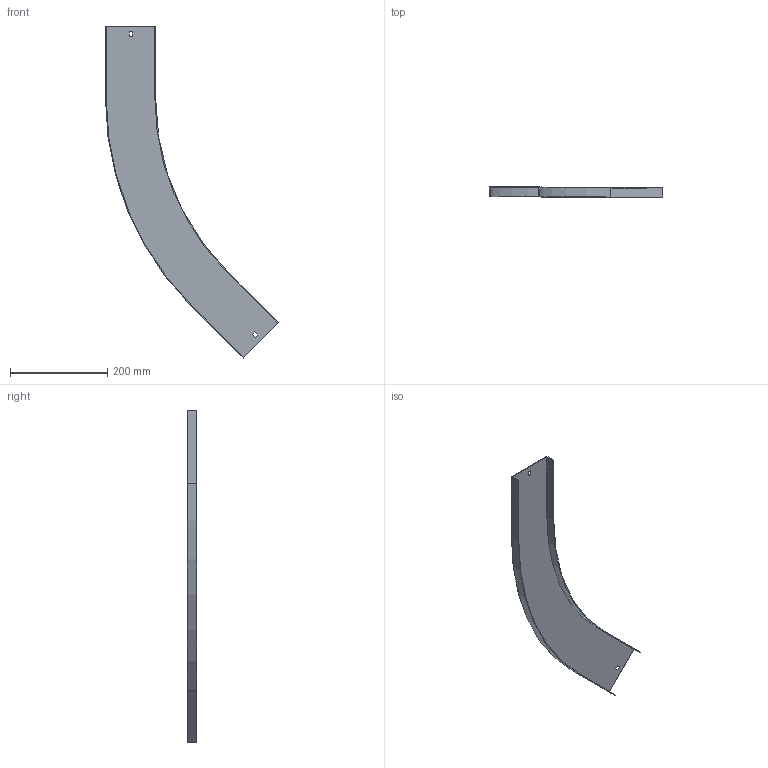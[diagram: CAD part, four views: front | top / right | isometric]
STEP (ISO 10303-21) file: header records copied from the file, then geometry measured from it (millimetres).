
FILE_DESCRIPTION (( 'STEP AP214' ), '1' );
FILE_NAME ('11N5R100.step', '2025-02-21T10:49:50', ( '' ), ( '' ), 'SwSTEP 2.0', 'SolidWorks 2023', '' );
FILE_SCHEMA (( 'AUTOMOTIVE_DESIGN' ));
Length unit declared in the file: millimetre
Products named in the file (1): 11N5R100
Bounding box: 355.07 x 20 x 681.39 mm (x, y, z)
Volume: 153538 mm3; surface area: 207426.2 mm2
Topology: 1 solids, 1 shells, 26 faces, 72 edges, 48 vertices
Faces by surface type: plane 22, cylinder 4
Entity records: 855 total; most frequent: CARTESIAN_POINT 147, ORIENTED_EDGE 144, DIRECTION 134, EDGE_CURVE 72, VECTOR 64, LINE 64, VERTEX_POINT 48, AXIS2_PLACEMENT_3D 35
